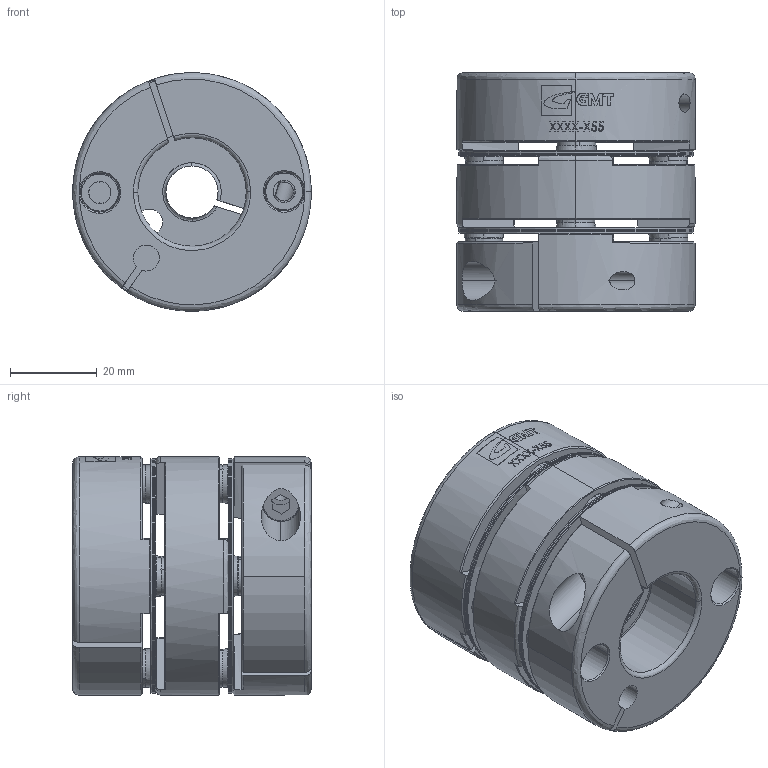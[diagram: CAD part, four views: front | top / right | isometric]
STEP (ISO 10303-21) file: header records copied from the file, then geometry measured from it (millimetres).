
FILE_DESCRIPTION (( 'STEP AP203' ), '1' );
FILE_NAME ('FACC-L55.STEP', '2008-04-05T01:57:48', ( '陳志豪' ), ( '高明鐵企業股份有限公司' ), 'SwSTEP 2.0', 'SolidWorks 2007', '' );
FILE_SCHEMA (( 'CONFIG_CONTROL_DESIGN' ));
Length unit declared in the file: millimetre
Products named in the file (1): FACC-L55
Bounding box: 55 x 55 x 55 mm (x, y, z)
Surface area: 33836.9 mm2 (no closed solid volume)
Topology: 0 solids, 14 shells, 334 faces, 1033 edges, 706 vertices
Faces by surface type: cylinder 156, cone 66, plane 61, bspline 51
Entity records: 17336 total; most frequent: CARTESIAN_POINT 8770, ORIENTED_EDGE 1904, DIRECTION 1479, EDGE_CURVE 1033, VERTEX_POINT 706, AXIS2_PLACEMENT_3D 580, B_SPLINE_CURVE_WITH_KNOTS 411, EDGE_LOOP 391
